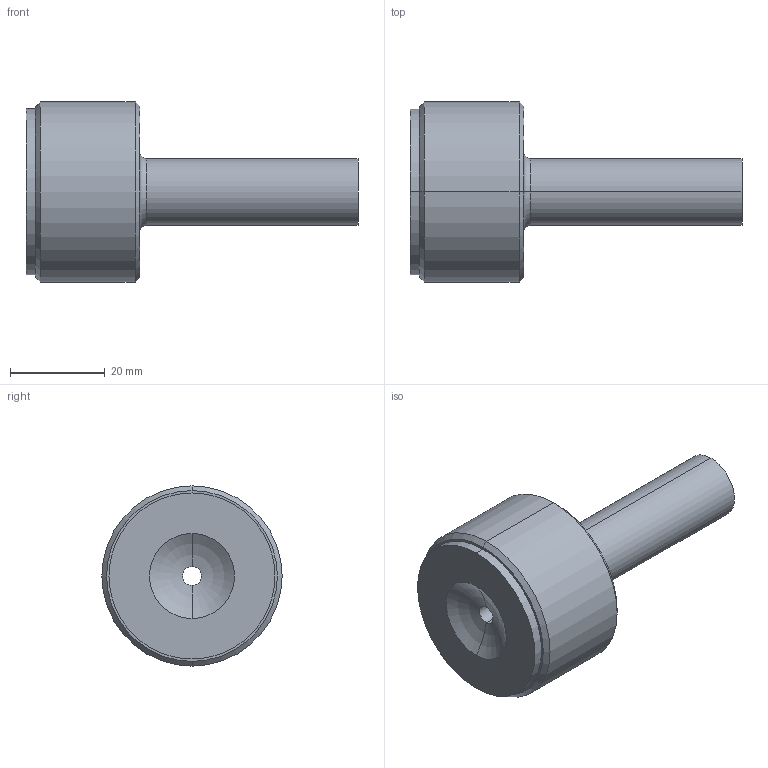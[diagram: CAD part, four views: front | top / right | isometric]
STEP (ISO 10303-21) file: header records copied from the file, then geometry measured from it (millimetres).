
FILE_DESCRIPTION (( 'STEP AP214' ), '1' );
FILE_NAME ('BRB31T-24x070.STEP', '2020-01-30T15:08:50', ( 'August' ), ( '' ), 'SwSTEP 2.0', 'SolidWorks 2018', '' );
FILE_SCHEMA (( 'AUTOMOTIVE_DESIGN' ));
Length unit declared in the file: millimetre
Products named in the file (1): BRB31T-24x070
Bounding box: 70 x 38 x 38 mm (x, y, z)
Volume: 31242.5 mm3; surface area: 8261.8 mm2
Topology: 1 solids, 1 shells, 20 faces, 40 edges, 24 vertices
Faces by surface type: cone 6, cylinder 6, torus 4, plane 4
Entity records: 566 total; most frequent: DIRECTION 110, CARTESIAN_POINT 85, ORIENTED_EDGE 80, AXIS2_PLACEMENT_3D 49, EDGE_CURVE 40, CIRCLE 28, VERTEX_POINT 24, EDGE_LOOP 24
